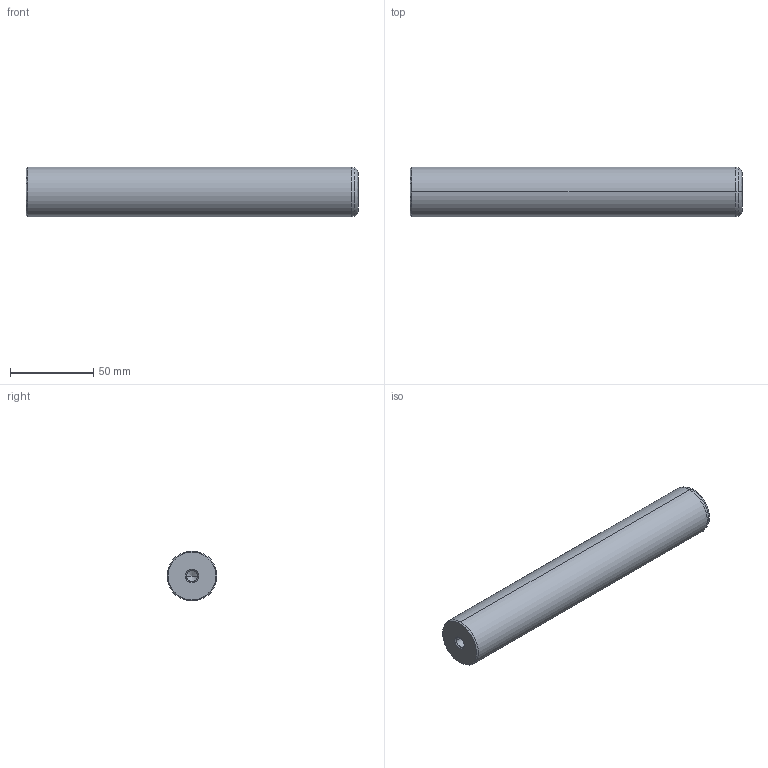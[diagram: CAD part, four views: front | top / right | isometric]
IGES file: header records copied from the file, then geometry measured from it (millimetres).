
Start section: START RECORD GO HERE.
Global section: file name: 720-30x200.igs; native system: DASSAULT SYSTEMES CATIA V5 R20 - www.3ds.com; preprocessor: CATIA Version 5 Release 20 ; author: Utente; organization: NB04-ASUS; date: 20210101.133207; units: millimetre
Bounding box: 200 x 30 x 30 mm (x, y, z)
Surface area: 21060.3 mm2 (no closed solid volume)
Topology: 0 solids, 0 shells, 22 faces, 108 edges, 104 vertices
Faces by surface type: revolution 20, plane 2
